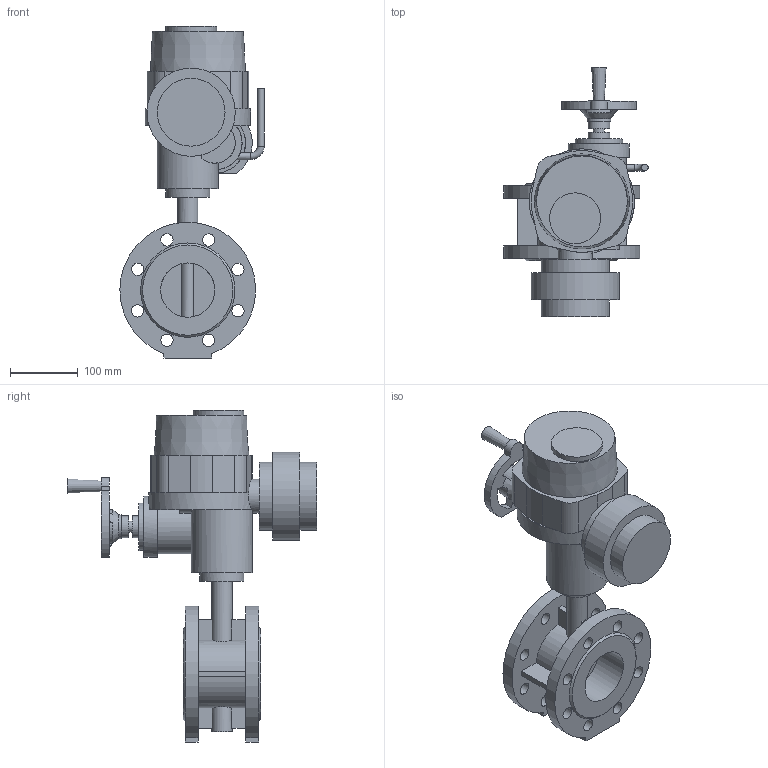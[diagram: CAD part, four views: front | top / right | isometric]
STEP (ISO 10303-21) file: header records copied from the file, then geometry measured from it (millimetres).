
FILE_DESCRIPTION(('STEP AP203'), '1');
FILE_NAME('青蜮铕 021F.Y DN80+菹 QT.A005', '', ('UNSPECIFIED'), ('UNSPECIFIED'), 'ASCON STEP Converter 1.6', 'ASCON Math Kernel', '');
FILE_SCHEMA(('CONFIG_CONTROL_DESIGN'));
Length unit declared in the file: millimetre
Bounding box: 212.5 x 368 x 489 mm (x, y, z)
Volume: 5994716.4 mm3; surface area: 461932.8 mm2
Topology: 1 solids, 1 shells, 187 faces, 457 edges, 298 vertices
Faces by surface type: plane 104, cylinder 77, cone 5, torus 1
Full cylindrical faces by diameter (mm): 6.7 x8, 8 x4, 10 x2, 16 x1, 18 x16, 30 x2, 32 x2, 35 x1, 50 x1, 65 x1, 70 x1, 75 x1, 80 x2, 90 x2, 100 x2, 130 x1
Entity records: 8287 total; most frequent: CARTESIAN_POINT 2336, DIRECTION 953, ORIENTED_EDGE 808, EDGE_CURVE 404, AXIS2_PLACEMENT_3D 385, EDGE_LOOP 304, VERTEX_POINT 298, FACE_BOUND 211
